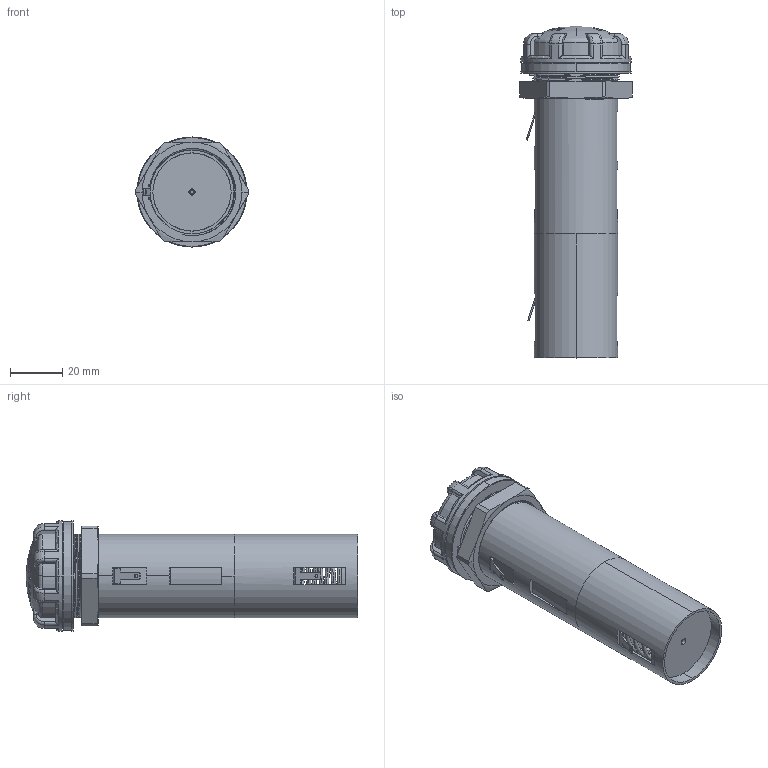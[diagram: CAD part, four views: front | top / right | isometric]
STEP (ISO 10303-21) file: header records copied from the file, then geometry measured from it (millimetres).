
FILE_DESCRIPTION(('STEP AP214'),'1');
FILE_NAME('bxs002-1.stp','2018-02-12T13:09:39',('TraceParts'),('TraceParts S.A.'),'Spatial InterOp 3D',' ',' ');
FILE_SCHEMA(('automotive_design'));
Length unit declared in the file: millimetre
Products named in the file (13): bxs002-1_1; bxs002-1_2; bxs002-1_3; bxs002-1_4; bxs002-1_5; bxs002-1_6; bxs002-1_7; bxs002-1_8; bxs002-1_9; bxs002-1_10; bxs002-1_11; bxs002-1_12; bxs002-1_13
Bounding box: 43 x 126.68 x 42 mm (x, y, z)
Volume: 31050.4 mm3; surface area: 45062.3 mm2
Topology: 13 solids, 13 shells, 905 faces, 2347 edges, 1493 vertices
Faces by surface type: plane 435, cylinder 218, bspline 118, torus 55, extrusion 53, cone 12, sphere 10, revolution 4
Entity records: 43590 total; most frequent: CARTESIAN_POINT 22623, ORIENTED_EDGE 4690, DIRECTION 3681, EDGE_CURVE 2345, VERTEX_POINT 1493, AXIS2_PLACEMENT_3D 1242, VECTOR 1193, LINE 1140
